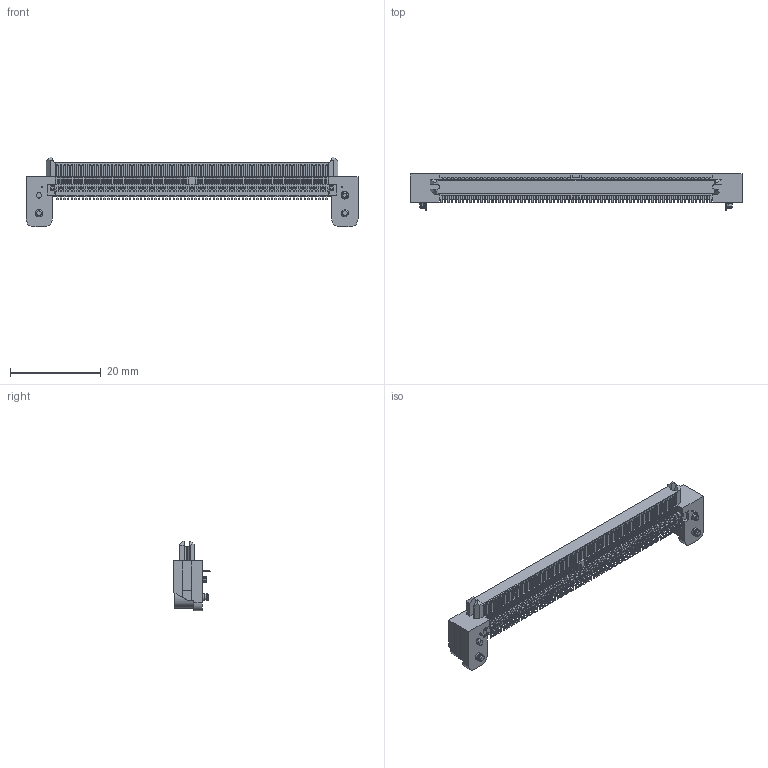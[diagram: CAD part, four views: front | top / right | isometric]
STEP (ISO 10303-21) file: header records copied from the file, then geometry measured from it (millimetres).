
FILE_DESCRIPTION (( 'STEP AP214' ), '1' );
FILE_NAME ('2386-12X75C3D1MLT-S.STEP', '2021-03-11T10:34:41', ( '' ), ( '' ), 'SwSTEP 2.0', 'SolidWorks 2011', '' );
FILE_SCHEMA (( 'AUTOMOTIVE_DESIGN' ));
Length unit declared in the file: millimetre
Products named in the file (1): 2386-12X75C3D1MLT-S
Bounding box: 73 x 7.93 x 15.36 mm (x, y, z)
Volume: 2350 mm3; surface area: 3744.3 mm2
Topology: 1 solids, 1 shells, 9621 faces, 27348 edges, 17674 vertices
Faces by surface type: plane 6364, cylinder 3249, cone 6, torus 2
Entity records: 416835 total; most frequent: ORIENTED_EDGE 54696, CARTESIAN_POINT 54680, DIRECTION 53080, EDGE_CURVE 27348, VECTOR 20836, LINE 20836, VERTEX_POINT 17674, AXIS2_PLACEMENT_3D 16122
